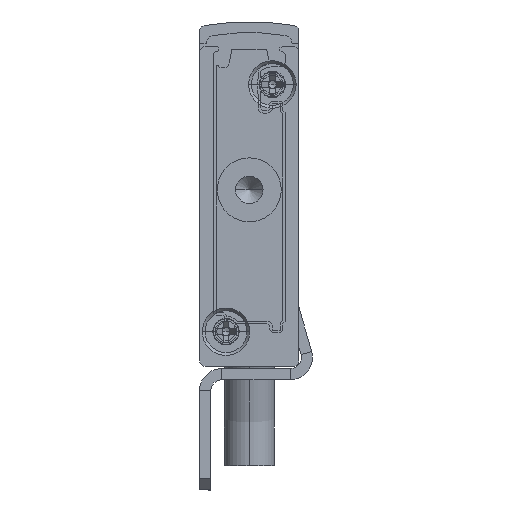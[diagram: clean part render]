
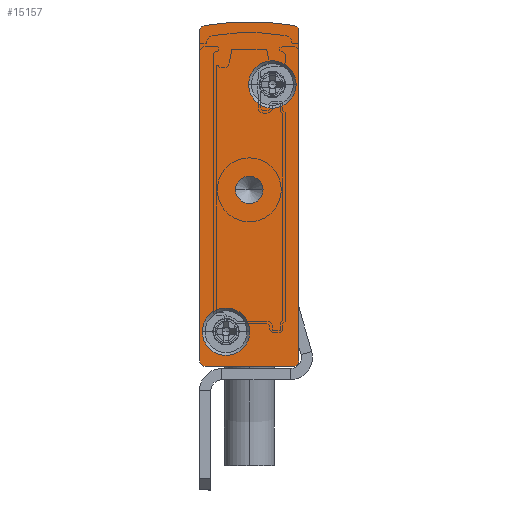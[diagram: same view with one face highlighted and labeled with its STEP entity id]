
A CAD part, front view. The second image highlights one B-rep face of the part: STEP entity #15157.
In plain terms, the highlighted planar face has unit normal (0, -1, 0).
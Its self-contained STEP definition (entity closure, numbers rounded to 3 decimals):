
#61 = CARTESIAN_POINT ( 'NONE',  ( -2.4, -2.5, 25.55 ) ) ;
#101 = DIRECTION ( 'NONE',  ( 0., -1., 0. ) ) ;
#145 = AXIS2_PLACEMENT_3D ( 'NONE', #10078, #8425, #2701 ) ;
#254 = CIRCLE ( 'NONE', #12426, 1.25 ) ;
#378 = VERTEX_POINT ( 'NONE', #21005 ) ;
#423 = DIRECTION ( 'NONE',  ( -1., 0., 0. ) ) ;
#830 = CIRCLE ( 'NONE', #11174, 2.15 ) ;
#1315 = DIRECTION ( 'NONE',  ( 0., 0., -1. ) ) ;
#1374 = CARTESIAN_POINT ( 'NONE',  ( -9., -2.5, 30.402 ) ) ;
#1796 = VECTOR ( 'NONE', #14384, 1000. ) ;
#1955 = CARTESIAN_POINT ( 'NONE',  ( -4.5, -2.5, 16. ) ) ;
#2011 = EDGE_CURVE ( 'NONE', #17939, #2330, #15444, .T. ) ;
#2090 = CARTESIAN_POINT ( 'NONE',  ( -2.4, -2.5, 25.55 ) ) ;
#2200 = CARTESIAN_POINT ( 'NONE',  ( -6.6, -2.5, 3.15 ) ) ;
#2330 = VERTEX_POINT ( 'NONE', #23004 ) ;
#2360 = VERTEX_POINT ( 'NONE', #15302 ) ;
#2701 = DIRECTION ( 'NONE',  ( -1., 0., 0. ) ) ;
#2735 = VECTOR ( 'NONE', #1315, 1000. ) ;
#2790 = CARTESIAN_POINT ( 'NONE',  ( -0.408, -2.5, 30.893 ) ) ;
#3090 = CARTESIAN_POINT ( 'NONE',  ( 0., -2.5, 30.402 ) ) ;
#3529 = VERTEX_POINT ( 'NONE', #12162 ) ;
#3559 = DIRECTION ( 'NONE',  ( 1., 0., 0. ) ) ;
#3785 = EDGE_CURVE ( 'NONE', #2330, #15957, #12588, .T. ) ;
#3825 = DIRECTION ( 'NONE',  ( -1., 0., 0. ) ) ;
#4453 = ORIENTED_EDGE ( 'NONE', *, *, #3785, .F. ) ;
#4680 = CARTESIAN_POINT ( 'NONE',  ( -6.6, -2.5, 3.15 ) ) ;
#4961 = CARTESIAN_POINT ( 'NONE',  ( -8.5, -2.5, 30.402 ) ) ;
#5145 = CIRCLE ( 'NONE', #11452, 2.15 ) ;
#5197 = CIRCLE ( 'NONE', #11171, 0.5 ) ;
#5207 = CARTESIAN_POINT ( 'NONE',  ( -8.5, -2.5, 0. ) ) ;
#5230 = ORIENTED_EDGE ( 'NONE', *, *, #18555, .F. ) ;
#5283 = CARTESIAN_POINT ( 'NONE',  ( -3.25, -2.5, 16. ) ) ;
#5495 = DIRECTION ( 'NONE',  ( 0., -1., 0. ) ) ;
#5864 = DIRECTION ( 'NONE',  ( 0., 1., 0. ) ) ;
#5887 = VERTEX_POINT ( 'NONE', #5283 ) ;
#5943 = DIRECTION ( 'NONE',  ( 0., 1., 0. ) ) ;
#5997 = CIRCLE ( 'NONE', #20852, 2.15 ) ;
#6408 = ORIENTED_EDGE ( 'NONE', *, *, #11974, .F. ) ;
#6532 = CARTESIAN_POINT ( 'NONE',  ( -0.25, -2.5, 25.55 ) ) ;
#6553 = CARTESIAN_POINT ( 'NONE',  ( -0.5, -2.5, 0.5 ) ) ;
#6580 = DIRECTION ( 'NONE',  ( 1., 0., 0. ) ) ;
#6917 = FACE_BOUND ( 'NONE', #22599, .T. ) ;
#6975 = AXIS2_PLACEMENT_3D ( 'NONE', #4961, #19377, #15807 ) ;
#7118 = DIRECTION ( 'NONE',  ( 0., 0., 1. ) ) ;
#7575 = EDGE_CURVE ( 'NONE', #2360, #12602, #19725, .T. ) ;
#8128 = LINE ( 'NONE', #19859, #21731 ) ;
#8308 = CARTESIAN_POINT ( 'NONE',  ( -4.55, -2.5, 25.55 ) ) ;
#8425 = DIRECTION ( 'NONE',  ( 0., 1., 0. ) ) ;
#8628 = VERTEX_POINT ( 'NONE', #2790 ) ;
#8676 = CARTESIAN_POINT ( 'NONE',  ( -8.5, -2.5, 30.402 ) ) ;
#9078 = VERTEX_POINT ( 'NONE', #6532 ) ;
#9350 = DIRECTION ( 'NONE',  ( 0., 1., 0. ) ) ;
#9783 = DIRECTION ( 'NONE',  ( 1., 0., 0. ) ) ;
#9903 = VERTEX_POINT ( 'NONE', #8308 ) ;
#10078 = CARTESIAN_POINT ( 'NONE',  ( -4.5, -2.5, 7.592 ) ) ;
#10097 = CARTESIAN_POINT ( 'NONE',  ( -8.592, -2.5, 30.893 ) ) ;
#10292 = ORIENTED_EDGE ( 'NONE', *, *, #24027, .F. ) ;
#10329 = PLANE ( 'NONE',  #17874 ) ;
#10359 = FACE_BOUND ( 'NONE', #16315, .T. ) ;
#10424 = CIRCLE ( 'NONE', #145, 23.658 ) ;
#10439 = EDGE_CURVE ( 'NONE', #9903, #9078, #11263, .T. ) ;
#10485 = DIRECTION ( 'NONE',  ( 0., 1., 0. ) ) ;
#11007 = CARTESIAN_POINT ( 'NONE',  ( -4.5, -2.5, 16. ) ) ;
#11077 = DIRECTION ( 'NONE',  ( -1., 0., 0. ) ) ;
#11146 = ORIENTED_EDGE ( 'NONE', *, *, #12568, .F. ) ;
#11171 = AXIS2_PLACEMENT_3D ( 'NONE', #20633, #5864, #11629 ) ;
#11174 = AXIS2_PLACEMENT_3D ( 'NONE', #2090, #13208, #9783 ) ;
#11263 = CIRCLE ( 'NONE', #19568, 2.15 ) ;
#11452 = AXIS2_PLACEMENT_3D ( 'NONE', #2200, #101, #15107 ) ;
#11606 = AXIS2_PLACEMENT_3D ( 'NONE', #6553, #5943, #423 ) ;
#11629 = DIRECTION ( 'NONE',  ( -1., 0., 0. ) ) ;
#11678 = EDGE_CURVE ( 'NONE', #378, #3529, #5997, .T. ) ;
#11974 = EDGE_CURVE ( 'NONE', #15079, #8628, #10424, .T. ) ;
#12162 = CARTESIAN_POINT ( 'NONE',  ( -4.45, -2.5, 3.15 ) ) ;
#12426 = AXIS2_PLACEMENT_3D ( 'NONE', #11007, #9350, #11077 ) ;
#12568 = EDGE_CURVE ( 'NONE', #15957, #2360, #21521, .T. ) ;
#12588 = CIRCLE ( 'NONE', #11606, 0.5 ) ;
#12602 = VERTEX_POINT ( 'NONE', #18018 ) ;
#13148 = ORIENTED_EDGE ( 'NONE', *, *, #7575, .F. ) ;
#13208 = DIRECTION ( 'NONE',  ( 0., -1., 0. ) ) ;
#13410 = CARTESIAN_POINT ( 'NONE',  ( -0.5, -2.5, 0. ) ) ;
#13494 = EDGE_CURVE ( 'NONE', #3529, #378, #5145, .T. ) ;
#13524 = EDGE_CURVE ( 'NONE', #21869, #5887, #19581, .T. ) ;
#13569 = ORIENTED_EDGE ( 'NONE', *, *, #2011, .F. ) ;
#13721 = EDGE_LOOP ( 'NONE', ( #15226, #5230, #13148, #11146, #4453, #13569, #20971, #6408 ) ) ;
#14213 = ORIENTED_EDGE ( 'NONE', *, *, #13524, .T. ) ;
#14384 = DIRECTION ( 'NONE',  ( -1., 0., 0. ) ) ;
#14465 = ORIENTED_EDGE ( 'NONE', *, *, #10439, .F. ) ;
#14472 = AXIS2_PLACEMENT_3D ( 'NONE', #19409, #21669, #23545 ) ;
#14867 = DIRECTION ( 'NONE',  ( 0., 1., 0. ) ) ;
#14913 = ORIENTED_EDGE ( 'NONE', *, *, #13494, .F. ) ;
#15079 = VERTEX_POINT ( 'NONE', #10097 ) ;
#15107 = DIRECTION ( 'NONE',  ( 1., 0., 0. ) ) ;
#15157 = ADVANCED_FACE ( 'NONE', ( #22841, #6917, #17842, #10359 ), #10329, .F. ) ;
#15226 = ORIENTED_EDGE ( 'NONE', *, *, #20060, .F. ) ;
#15302 = CARTESIAN_POINT ( 'NONE',  ( -8.5, -2.5, 0. ) ) ;
#15444 = LINE ( 'NONE', #3090, #2735 ) ;
#15807 = DIRECTION ( 'NONE',  ( -1., 0., 0. ) ) ;
#15957 = VERTEX_POINT ( 'NONE', #13410 ) ;
#16315 = EDGE_LOOP ( 'NONE', ( #14213, #18188 ) ) ;
#17572 = DIRECTION ( 'NONE',  ( 0., -1., 0. ) ) ;
#17842 = FACE_OUTER_BOUND ( 'NONE', #13721, .T. ) ;
#17874 = AXIS2_PLACEMENT_3D ( 'NONE', #8676, #10485, #23355 ) ;
#17939 = VERTEX_POINT ( 'NONE', #19545 ) ;
#18018 = CARTESIAN_POINT ( 'NONE',  ( -9., -2.5, 0.5 ) ) ;
#18029 = ORIENTED_EDGE ( 'NONE', *, *, #11678, .F. ) ;
#18060 = EDGE_LOOP ( 'NONE', ( #10292, #14465 ) ) ;
#18188 = ORIENTED_EDGE ( 'NONE', *, *, #18584, .T. ) ;
#18282 = CIRCLE ( 'NONE', #6975, 0.5 ) ;
#18555 = EDGE_CURVE ( 'NONE', #12602, #20201, #8128, .T. ) ;
#18584 = EDGE_CURVE ( 'NONE', #5887, #21869, #254, .T. ) ;
#18790 = EDGE_CURVE ( 'NONE', #8628, #17939, #5197, .T. ) ;
#19147 = CARTESIAN_POINT ( 'NONE',  ( -5.75, -2.5, 16. ) ) ;
#19377 = DIRECTION ( 'NONE',  ( 0., 1., 0. ) ) ;
#19409 = CARTESIAN_POINT ( 'NONE',  ( -8.5, -2.5, 0.5 ) ) ;
#19545 = CARTESIAN_POINT ( 'NONE',  ( 0., -2.5, 30.402 ) ) ;
#19568 = AXIS2_PLACEMENT_3D ( 'NONE', #61, #5495, #3559 ) ;
#19581 = CIRCLE ( 'NONE', #22232, 1.25 ) ;
#19725 = CIRCLE ( 'NONE', #14472, 0.5 ) ;
#19859 = CARTESIAN_POINT ( 'NONE',  ( -9., -2.5, 30.402 ) ) ;
#20060 = EDGE_CURVE ( 'NONE', #20201, #15079, #18282, .T. ) ;
#20201 = VERTEX_POINT ( 'NONE', #1374 ) ;
#20633 = CARTESIAN_POINT ( 'NONE',  ( -0.5, -2.5, 30.402 ) ) ;
#20852 = AXIS2_PLACEMENT_3D ( 'NONE', #4680, #17572, #6580 ) ;
#20971 = ORIENTED_EDGE ( 'NONE', *, *, #18790, .F. ) ;
#21005 = CARTESIAN_POINT ( 'NONE',  ( -8.75, -2.5, 3.15 ) ) ;
#21521 = LINE ( 'NONE', #5207, #1796 ) ;
#21669 = DIRECTION ( 'NONE',  ( 0., 1., 0. ) ) ;
#21731 = VECTOR ( 'NONE', #7118, 1000. ) ;
#21869 = VERTEX_POINT ( 'NONE', #19147 ) ;
#22232 = AXIS2_PLACEMENT_3D ( 'NONE', #1955, #14867, #3825 ) ;
#22599 = EDGE_LOOP ( 'NONE', ( #14913, #18029 ) ) ;
#22841 = FACE_BOUND ( 'NONE', #18060, .T. ) ;
#23004 = CARTESIAN_POINT ( 'NONE',  ( 0., -2.5, 0.5 ) ) ;
#23355 = DIRECTION ( 'NONE',  ( -1., 0., 0. ) ) ;
#23545 = DIRECTION ( 'NONE',  ( -1., 0., 0. ) ) ;
#24027 = EDGE_CURVE ( 'NONE', #9078, #9903, #830, .T. ) ;
